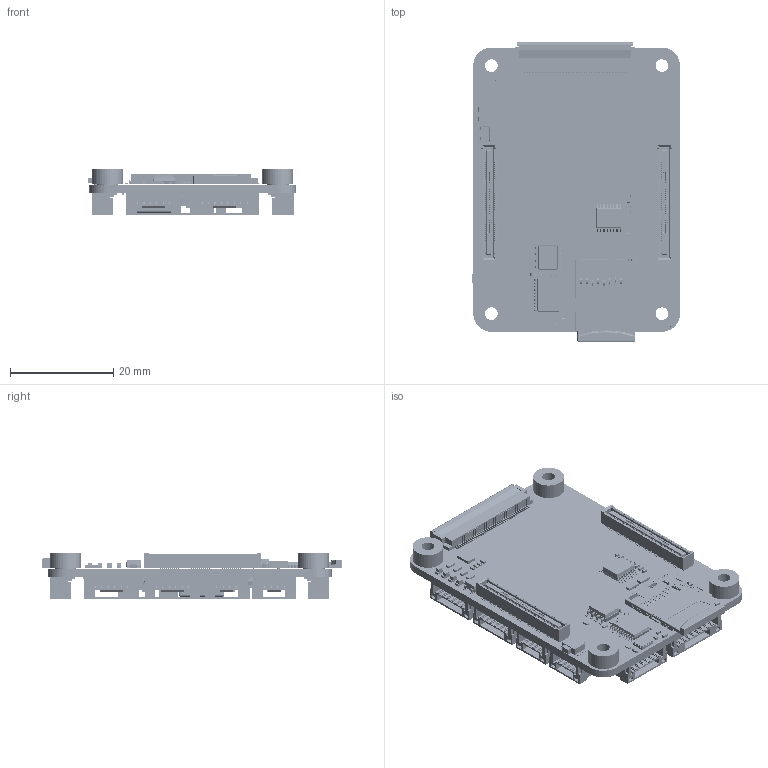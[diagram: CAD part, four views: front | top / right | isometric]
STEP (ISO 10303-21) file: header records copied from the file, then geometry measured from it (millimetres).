
FILE_DESCRIPTION(/* description */ ('KiCad electronic assembly','CAx-IF Rec.Pracs.---Representation and Presentation of Product Manufacturing Information (PMI)---4.0---2014-10-13'),/* implementation_level */ '2;1');
FILE_NAME(/* name */ 'aerium-pascal.step',/* time_stamp */ '2025-04-09T16:31:59+03:00',/* author */ (''),/* organization */ (''),/* preprocessor_version */ 'ST-DEVELOPER v20',/* originating_system */ 'Autodesk Translation Framework v13.20.0.188',/* authorisation */ '');
FILE_SCHEMA (('AP242_MANAGED_MODEL_BASED_3D_ENGINEERING_MIM_LF { 1 0 10303 442 1 1 4 }'));
Products named in the file (74): pascal 1; GL823K; ASSEMBLY; SOT-23-5; SOT_23_5; PTS840GMPSMTRLFS; (Unsaved); Crystal_SMD_3225-4Pin_3.2x2.5mm; Crystal_SMD_3225-4Pin_3.2x2.5mm_1; AT24C02D-MAHM-T; ASSEMBLY_1; 503398-1892; 5033980891; MicroSD; MicroSD_1; DF40HC_3.0_-100DS-0.4V_58; DF40HC(3.0)-100DS-0.4V(58; LED_0402_1005Metric; LED_0402_1005Metric_1; TSSOP-20_4.4x6.5mm_P0.65mm; TSSOP_20_44x65mm_P065mm; Hirose_FH12-40S-0.5SH_1x40-1MP_P0.50mm_Horizontal; Hirose_FH12_xxS_0_5SH_Parametric_v0_1; SOIC-8_3.9x4.9mm_P1.27mm; SOIC_8_39x49mm_P127mm; R_0603_1608Metric; R_0603_1608Metric_1; LED_0603_1608Metric; LED_0603_1608Metric_1; SMTSO3030CTJ; 1; USON-10_2.5x1.0mm_P0.5mm; USON_10_25x10mm_Pitch05mm; L_Sunlord_MWSA0804S; CQ assembly; D_SMA; D_SMA_1; Crystal_SMD_2520-4Pin_2.5x2.0mm; Crystal_SMD_2520-4Pin_2.5x2.0mm_1; D_SOD-523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
Assembly tree (167 placements, depth 3):
  pascal 1
    R_0603_1608Metric  x4
      R_0603_1608Metric_1
    GL823K
      ASSEMBLY
    SOT-23-5
      SOT_23_5
    C_0402_1005Metric  x29
      C_0402_1005Metric_1
    R_0402_1005Metric  x30
      R_0402_1005Metric_1
    LED_0603_1608Metric  x4
      LED_0603_1608Metric_1
    DF40HC_3.0_-100DS-0.4V_58  x2
      DF40HC(3.0)-100DS-0.4V(58
    PTS840GMPSMTRLFS
      (Unsaved)
    SMTSO3030CTJ  x4
      1
    Crystal_SMD_3225-4Pin_3.2x2.5mm
      Crystal_SMD_3225-4Pin_3.2x2.5mm_1
    AT24C02D-MAHM-T
      ASSEMBLY_1
    USON-10_2.5x1.0mm_P0.5mm  x2
      USON_10_25x10mm_Pitch05mm
    503398-1892
      5033980891
    MicroSD
      MicroSD_1
    LED_0402_1005Metric
      LED_0402_1005Metric_1
    TSSOP-20_4.4x6.5mm_P0.65mm
      TSSOP_20_44x65mm_P065mm
    Hirose_FH12-40S-0.5SH_1x40-1MP_P0.50mm_Horizontal
      Hirose_FH12_xxS_0_5SH_Parametric_v0_1
    SOIC-8_3.9x4.9mm_P1.27mm
      SOIC_8_39x49mm_P127mm
    L_Sunlord_MWSA0804S
      CQ assembly
    ALT4532M-171-T001  x4
      ALT4532M-171 Block model (typ size)
    C_0603_1608Metric  x6
      C_0603_1608Metric_1
    JST_GH_SM04B-GHS-TB_1x04-1MP_P1.25mm_Horizontal  x9
      JST_SM04B_GHS_TB
    D_SMA
      D_SMA_1
    ACM2012-900-2P-T002  x4
      ACM2012-T002 Block model (typ size)
    C_1206_3216Metric  x4
      C_1206_3216Metric_1
    Crystal_SMD_2520-4Pin_2.5x2.0mm
      Crystal_SMD_2520-4Pin_2.5x2.0mm_1
    D_SOD-523
      D_SOD_523
    L_Coilcraft_XAL4020-XXX
      CQ assembly_1
    C_0805_2012Metric  x3
      C_0805_2012Metric_1
    QFN-36-1EP_6x6mm_P0.5mm_EP3.7x3.7mm
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Bounding box: 40.25 x 57.98 x 8.95 mm (x, y, z)
Volume: 6525.9 mm3; surface area: 15492.3 mm2
Topology: 411 solids, 411 shells, 23493 faces, 65578 edges, 43356 vertices
Faces by surface type: plane 19505, cylinder 3876, bspline 52, torus 38, sphere 14, cone 8
Full cylindrical faces by diameter (mm): 0.2 x2, 0.235 x2, 0.25 x2, 0.37 x2, 0.4 x33, 0.487 x1, 0.5 x3, 0.6 x1, 0.7 x8, 2.459 x4, 4.2 x4, 4.3 x4, 6 x4
Entity records: 390723 total; most frequent: CARTESIAN_POINT 69149, ORIENTED_EDGE 66786, DIRECTION 61590, EDGE_CURVE 33393, LINE 29202, VECTOR 29202, VERTEX_POINT 21998, AXIS2_PLACEMENT_3D 16194
